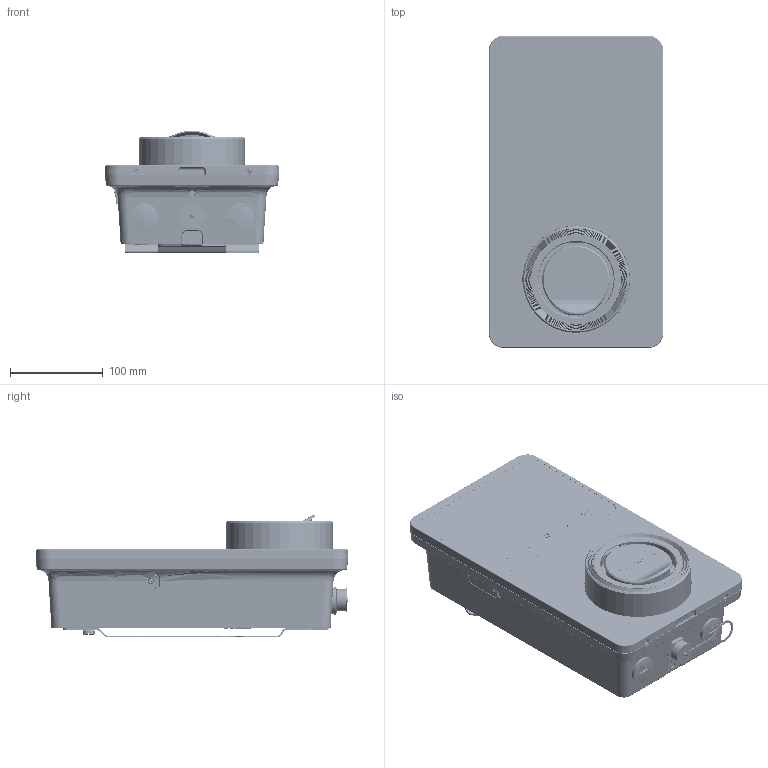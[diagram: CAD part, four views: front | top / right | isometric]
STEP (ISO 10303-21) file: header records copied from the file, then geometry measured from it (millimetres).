
FILE_DESCRIPTION((''),'2;1');
FILE_NAME('AUT41010472_ASM','2026-01-23T16:19:01',('A24651'),(''),'CREO PARAMETRIC BY PTC INC, 2018100','CREO PARAMETRIC BY PTC INC, 2018100','');
FILE_SCHEMA(('CONFIG_CONTROL_DESIGN','GEOMETRIC_VALIDATION_PROPERTIES_MIM'));
Products named in the file (45): AUT81010682; 07_NUT_M3_10; AUT81010682_ASM; AUT81010680; AUT81010681; AUT81370483; AUT81230478; AUT81470607; AUT61020438_ASM; AUT81200432; AUT81010579; AUT81070425; AUT81070425_ASM; AUT61010602_ASM; AUT61010601_ASM; AUT81010665; AUT81010665_2; NUT_M3X9_C_EC2121; NUT_M5X14_C_EC2121; NUT_M3X42-5_EC2121; NUT_M3X25_EC2121; NUT_M3X12_EC2121; AUT81010665_ASM; JGS-AUT81050420_PC; AUT81050420_ASM; AUT81470616; AUT81350439; AUT81470585; AUT81380440; RJ45_DUANZI; AUT81410485; AUT81050433_ASM; AUT61410413_M25X15; AUT61410413_NUT; AUT61410413_ORING; AUT61410413_ASM; AUT61410414_M16X15; AUT61410414_ORING; AUT61410414_NUT; AUT61410414_ASM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
Assembly tree (67 placements, depth 5):
  AUT41010472_ASM
    AUT61010601_ASM
      AUT61010602_ASM
        AUT81010682_ASM
          AUT81010682
          07_NUT_M3_10  x7
        AUT81010680
        AUT61020438_ASM
          AUT81010681
          AUT81370483
          AUT81230478
          AUT81470607
        AUT81200432
        AUT81010579
        AUT81070425_ASM
          AUT81070425
    AUT61010603_ASM
      AUT61010606_ASM
        AUT81010665_ASM
          AUT81010665
          AUT81010665_2
          NUT_M3X9_C_EC2121
          NUT_M5X14_C_EC2121
          NUT_M3X42-5_EC2121  x3
          NUT_M3X25_EC2121  x2
          NUT_M3X12_EC2121  x11
        AUT81050420_ASM
          JGS-AUT81050420_PC
        AUT81470616
        AUT81350439
        AUT81470585
        AUT81380440  x3
        AUT81050433_ASM
          RJ45_DUANZI
          AUT81410485
        AUT61410413_ASM  x3
          AUT61410413_M25X15
          AUT61410413_NUT
          AUT61410413_ORING
        AUT61410414_ASM
          AUT61410414_M16X15
          AUT61410414_ORING
          AUT61410414_NUT
        AUT81410458
        AUT81200442
Bounding box: 187.61 x 336.2 x 132.35 mm (x, y, z)
Volume: 1396261.3 mm3; surface area: 1208834.4 mm2
Topology: 60 solids, 60 shells, 16148 faces, 44686 edges, 29346 vertices
Faces by surface type: plane 9361, cylinder 2344, cone 1905, bspline 1289, extrusion 670, torus 512, sphere 63, revolution 4
Entity records: 648842 total; most frequent: CARTESIAN_POINT 211307, ORIENTED_EDGE 85382, DIRECTION 69022, EDGE_CURVE 42691, VERTEX_POINT 28062, VECTOR 26550, LINE 25880, AXIS2_PLACEMENT_3D 21234
